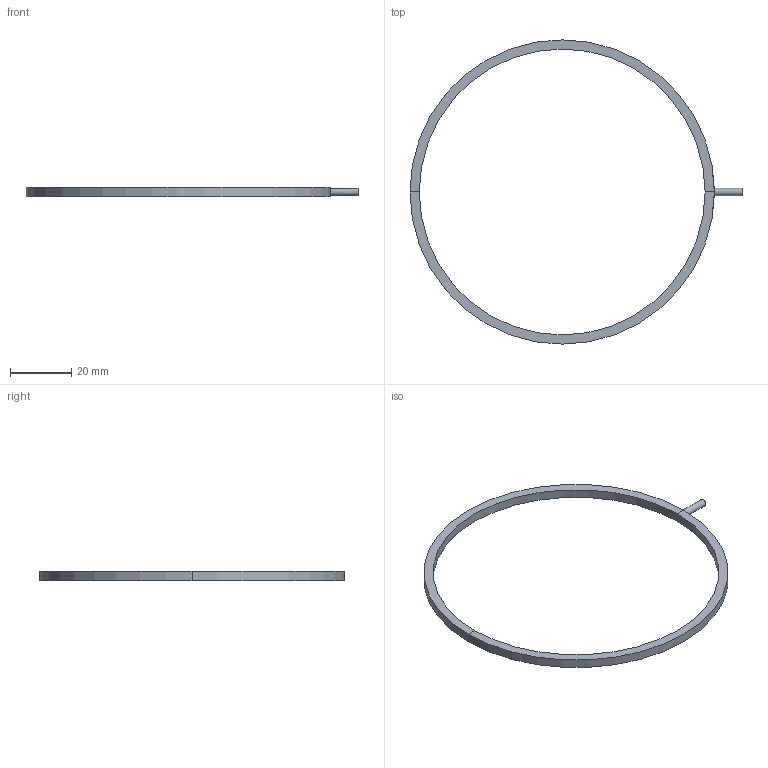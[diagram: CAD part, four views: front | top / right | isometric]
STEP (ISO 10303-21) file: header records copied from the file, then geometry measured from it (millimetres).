
FILE_DESCRIPTION(('BendCAD AP242 PMI export'),'2;1');
FILE_NAME('bendcad.step','',('BendCAD'),('BendCAD'),'BendCAD','BendCAD','');
FILE_SCHEMA(('AP242_MANAGED_MODEL_BASED_3D_ENGINEERING_MIM_LF'));
Length unit declared in the file: millimetre
Products named in the file (1): BENDCAD
Bounding box: 108 x 99 x 3 mm (x, y, z)
Volume: 2061.9 mm3; surface area: 5537.3 mm2
Topology: 1 solids, 1 shells, 22 faces, 167 edges, 145 vertices
Faces by surface type: cylinder 12, plane 10
Full cylindrical faces by diameter (mm): 1.4 x1, 2.4 x1
Entity records: 1780 total; most frequent: CARTESIAN_POINT 665, ORIENTED_EDGE 330, EDGE_CURVE 165, VERTEX_POINT 145, B_SPLINE_CURVE_WITH_KNOTS 116, DIRECTION 112, AXIS2_PLACEMENT_3D 44, EDGE_LOOP 26
